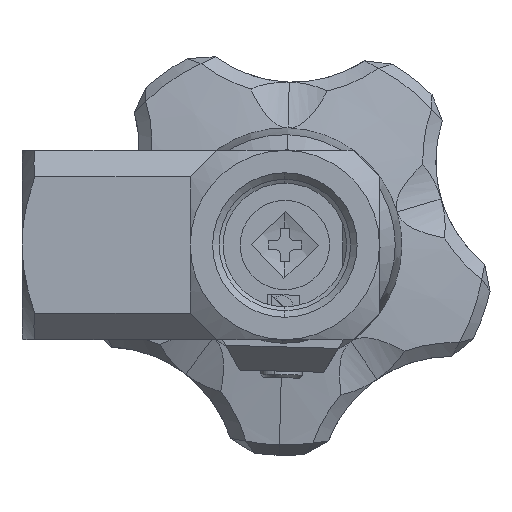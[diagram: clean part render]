
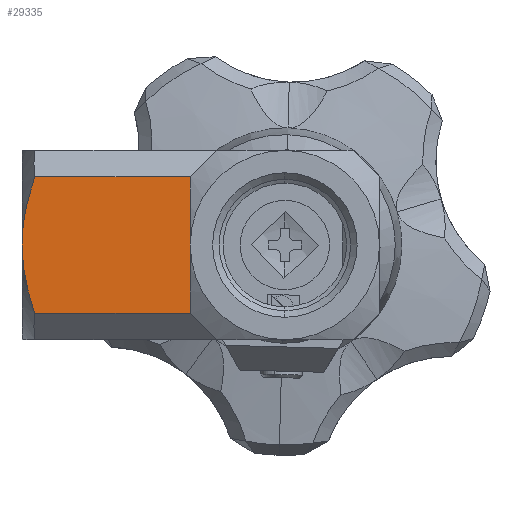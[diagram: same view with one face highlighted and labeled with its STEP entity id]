
A CAD part, front view. The second image highlights one B-rep face of the part: STEP entity #29335.
In plain terms, the highlighted planar face has unit normal (0, -1, 0).
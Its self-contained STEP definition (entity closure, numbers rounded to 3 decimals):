
#445 = CARTESIAN_POINT ( 'NONE',  ( -24.448, -9., -4.375 ) ) ;
#478 = VERTEX_POINT ( 'NONE', #20337 ) ;
#1376 = CARTESIAN_POINT ( 'NONE',  ( -25., -9., 0. ) ) ;
#1533 = CARTESIAN_POINT ( 'NONE',  ( -25., -9., 0. ) ) ;
#2190 = CARTESIAN_POINT ( 'NONE',  ( -23.787, -9., 6.5 ) ) ;
#2923 = CARTESIAN_POINT ( 'NONE',  ( -23.787, -9., -6.5 ) ) ;
#2992 = LINE ( 'NONE', #11251, #28482 ) ;
#3009 = DIRECTION ( 'NONE',  ( 0., -1., 0. ) ) ;
#3729 = VECTOR ( 'NONE', #12960, 1000. ) ;
#5049 = FACE_OUTER_BOUND ( 'NONE', #24424, .T. ) ;
#5527 = CARTESIAN_POINT ( 'NONE',  ( -25., -9., 6.5 ) ) ;
#6542 = B_SPLINE_CURVE_WITH_KNOTS ( 'NONE', 3,
 ( #11152, #8699, #23475, #28461, #13642, #30913, #16150, #1376 ),
 .UNSPECIFIED., .F., .F.,
 ( 4, 2, 2, 4 ),
 ( 0.024, 0.027, 0.029, 0.031 ),
 .UNSPECIFIED. ) ;
#7374 = ORIENTED_EDGE ( 'NONE', *, *, #15081, .T. ) ;
#7836 = PLANE ( 'NONE',  #14682 ) ;
#8300 = EDGE_CURVE ( 'NONE', #20536, #15249, #6542, .T. ) ;
#8699 = CARTESIAN_POINT ( 'NONE',  ( -24.142, -9., 5.448 ) ) ;
#10206 = CARTESIAN_POINT ( 'NONE',  ( -9., -9., -9. ) ) ;
#10390 = VERTEX_POINT ( 'NONE', #26486 ) ;
#11152 = CARTESIAN_POINT ( 'NONE',  ( -23.787, -9., 6.5 ) ) ;
#11251 = CARTESIAN_POINT ( 'NONE',  ( -9., -9., -6.5 ) ) ;
#12722 = CARTESIAN_POINT ( 'NONE',  ( -25., -9., 0. ) ) ;
#12960 = DIRECTION ( 'NONE',  ( -1., 0., 0. ) ) ;
#13642 = CARTESIAN_POINT ( 'NONE',  ( -24.854, -9., 2.217 ) ) ;
#14682 = AXIS2_PLACEMENT_3D ( 'NONE', #17764, #3009, #20228 ) ;
#14882 = EDGE_CURVE ( 'NONE', #478, #23925, #2992, .T. ) ;
#15081 = EDGE_CURVE ( 'NONE', #10390, #20536, #29976, .T. ) ;
#15160 = DIRECTION ( 'NONE',  ( 0., 0., -1. ) ) ;
#15182 = CARTESIAN_POINT ( 'NONE',  ( -24.878, -9., -2.207 ) ) ;
#15249 = VERTEX_POINT ( 'NONE', #1533 ) ;
#16134 = ORIENTED_EDGE ( 'NONE', *, *, #27833, .F. ) ;
#16150 = CARTESIAN_POINT ( 'NONE',  ( -25., -9., 0.555 ) ) ;
#17079 = ORIENTED_EDGE ( 'NONE', *, *, #20895, .T. ) ;
#17678 = CARTESIAN_POINT ( 'NONE',  ( -24.141, -9., -5.451 ) ) ;
#17764 = CARTESIAN_POINT ( 'NONE',  ( -25., -9., 9. ) ) ;
#19794 = B_SPLINE_CURVE_WITH_KNOTS ( 'NONE', 3,
 ( #12722, #27502, #15182, #445, #17678, #2923 ),
 .UNSPECIFIED., .F., .F.,
 ( 4, 2, 4 ),
 ( 0.031, 0.034, 0.037 ),
 .UNSPECIFIED. ) ;
#20127 = ORIENTED_EDGE ( 'NONE', *, *, #8300, .T. ) ;
#20228 = DIRECTION ( 'NONE',  ( 0., 0., -1. ) ) ;
#20337 = CARTESIAN_POINT ( 'NONE',  ( -23.787, -9., -6.5 ) ) ;
#20536 = VERTEX_POINT ( 'NONE', #2190 ) ;
#20895 = EDGE_CURVE ( 'NONE', #15249, #478, #19794, .T. ) ;
#23242 = CARTESIAN_POINT ( 'NONE',  ( -9., -9., -6.5 ) ) ;
#23475 = CARTESIAN_POINT ( 'NONE',  ( -24.446, -9., 4.384 ) ) ;
#23689 = DIRECTION ( 'NONE',  ( 1., 0., 0. ) ) ;
#23925 = VERTEX_POINT ( 'NONE', #23242 ) ;
#24424 = EDGE_LOOP ( 'NONE', ( #7374, #20127, #17079, #30661, #16134 ) ) ;
#26071 = LINE ( 'NONE', #10206, #31846 ) ;
#26486 = CARTESIAN_POINT ( 'NONE',  ( -9., -9., 6.5 ) ) ;
#27502 = CARTESIAN_POINT ( 'NONE',  ( -25., -9., -1.111 ) ) ;
#27833 = EDGE_CURVE ( 'NONE', #10390, #23925, #26071, .T. ) ;
#28461 = CARTESIAN_POINT ( 'NONE',  ( -24.769, -9., 2.762 ) ) ;
#28482 = VECTOR ( 'NONE', #23689, 1000. ) ;
#29335 = ADVANCED_FACE ( 'NONE', ( #5049 ), #7836, .T. ) ;
#29976 = LINE ( 'NONE', #5527, #3729 ) ;
#30661 = ORIENTED_EDGE ( 'NONE', *, *, #14882, .T. ) ;
#30913 = CARTESIAN_POINT ( 'NONE',  ( -24.97, -9., 1.115 ) ) ;
#31846 = VECTOR ( 'NONE', #15160, 1000. ) ;
